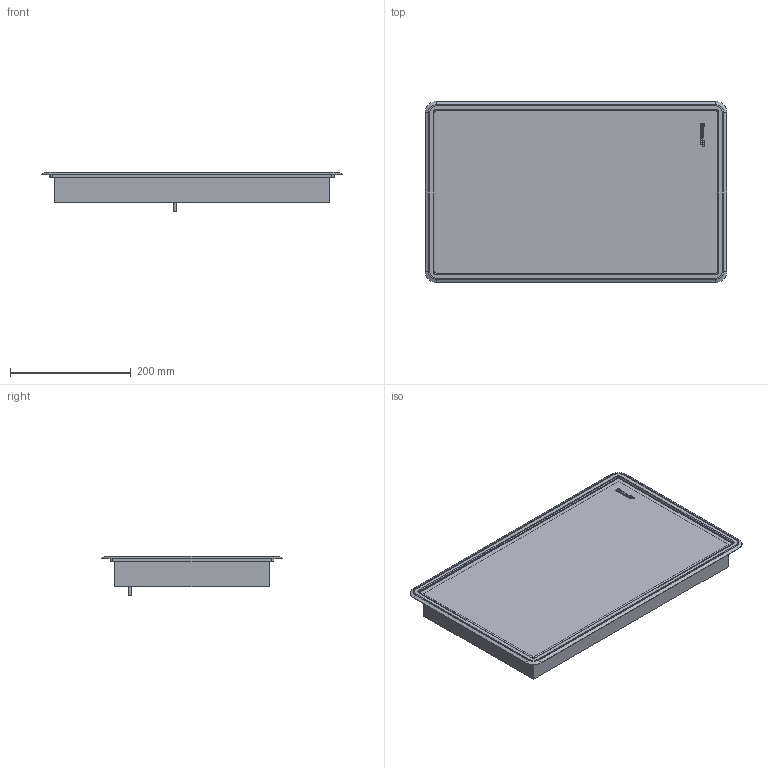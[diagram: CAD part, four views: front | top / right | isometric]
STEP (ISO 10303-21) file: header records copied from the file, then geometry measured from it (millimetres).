
FILE_DESCRIPTION(/* description */ (''),/* implementation_level */ '2;1');
FILE_NAME(/* name */ 'SE232TX1.stp',/* time_stamp */ '2021-10-06T10:02:19+02:00',/* author */ (''),/* organization */ (''),/* preprocessor_version */ 'ST-DEVELOPER v16',/* originating_system */ 'SIEMENS PLM Software NX 11.0',/* authorisation */ '');
FILE_SCHEMA (('AUTOMOTIVE_DESIGN { 1 0 10303 214 3 1 1 1 }'));
Length unit declared in the file: millimetre
Products named in the file (1): mart42E011A5jmun
Bounding box: 498.89 x 299.89 x 64.8 mm (x, y, z)
Volume: 5791179.7 mm3; surface area: 629294.9 mm2
Topology: 13 solids, 13 shells, 154 faces, 347 edges, 221 vertices
Faces by surface type: plane 82, cylinder 41, cone 12, extrusion 11, torus 8
Full cylindrical faces by diameter (mm): 3.37 x6, 5 x1
Entity records: 4583 total; most frequent: CARTESIAN_POINT 1016, DIRECTION 720, ORIENTED_EDGE 676, EDGE_CURVE 338, AXIS2_PLACEMENT_3D 250, VECTOR 220, VERTEX_POINT 220, LINE 209
